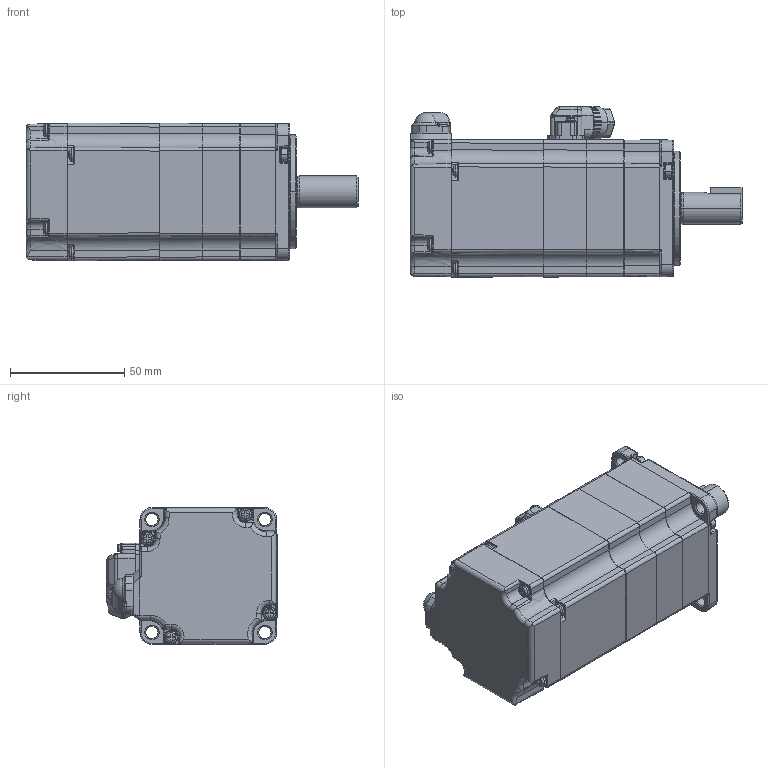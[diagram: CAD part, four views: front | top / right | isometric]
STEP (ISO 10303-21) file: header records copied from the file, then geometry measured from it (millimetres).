
FILE_DESCRIPTION( (''), '2;1');
FILE_NAME ('SGMXJ-02AUA6EC2.stp','2022-03-02T11:26:03',(''),(''),'spGate 15.6.6','','');
FILE_SCHEMA (('AUTOMOTIVE_DESIGN'));
Length unit declared in the file: millimetre
Products named in the file (10): Assembly; SGMXJ-02AUA6EC2-prt0; SGMXJ-02AUA6EC2-prt1; SGMXJ-02AUA6EC2-prt2; SGMXJ-02AUA6EC2-prt3; SGMXJ-02AUA6EC2-prt4; SGMXJ-02AUA6EC2-prt5; SGMXJ-02AUA6EC2-prt6; SGMXJ-02AUA6EC2-prt7; SGMXJ-02AUA6EC2-prt8
Assembly tree (9 placements, depth 2):
  Assembly
    SGMXJ-02AUA6EC2-prt0
    SGMXJ-02AUA6EC2-prt1
    SGMXJ-02AUA6EC2-prt2
    SGMXJ-02AUA6EC2-prt3
    SGMXJ-02AUA6EC2-prt4
    SGMXJ-02AUA6EC2-prt5
    SGMXJ-02AUA6EC2-prt6
    SGMXJ-02AUA6EC2-prt7
    SGMXJ-02AUA6EC2-prt8
Bounding box: 145.5 x 74.65 x 60.35 mm (x, y, z)
Volume: 383835.6 mm3; surface area: 41627.2 mm2
Topology: 4 solids, 9 shells, 1137 faces, 2958 edges, 1833 vertices
Faces by surface type: plane 453, cylinder 332, bspline 322, sphere 30
Entity records: 64556 total; most frequent: CARTESIAN_POINT 14864, ORIENTED_EDGE 5784, DIRECTION 5162, COLOUR_RGB 4087, PRESENTATION_STYLE_ASSIGNMENT 4087, STYLED_ITEM 4087, EDGE_CURVE 2941, DRAUGHTING_PRE_DEFINED_CURVE_FONT 2941
